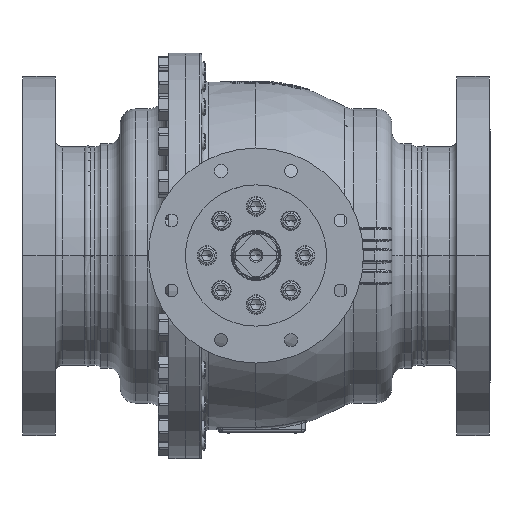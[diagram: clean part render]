
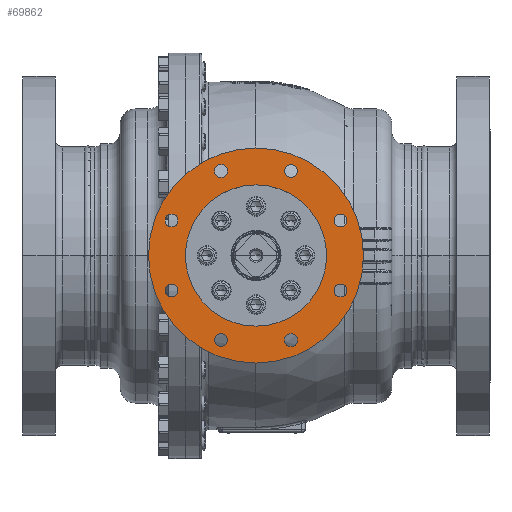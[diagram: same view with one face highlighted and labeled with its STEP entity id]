
A CAD part, top view. The second image highlights one B-rep face of the part: STEP entity #69862.
In plain terms, the highlighted planar face has unit normal (0, 0, 1).
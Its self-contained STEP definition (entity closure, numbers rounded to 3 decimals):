
#2970=CARTESIAN_POINT('',(0.,0.,440.));
#2971=DIRECTION('',(0.,0.,1.));
#2972=DIRECTION('',(1.,0.,0.));
#2973=AXIS2_PLACEMENT_3D('',#2970,#2971,#2972);
#2975=CARTESIAN_POINT('',(0.,0.,440.));
#2976=DIRECTION('',(0.,0.,-1.));
#2977=DIRECTION('',(1.,0.,0.));
#2978=AXIS2_PLACEMENT_3D('',#2975,#2976,#2977);
#2980=CARTESIAN_POINT('',(-57.02,137.658,440.));
#2981=DIRECTION('',(0.,0.,-1.));
#2982=DIRECTION('',(-1.,0.,0.));
#2983=AXIS2_PLACEMENT_3D('',#2980,#2981,#2982);
#2985=CARTESIAN_POINT('',(-57.02,137.658,440.));
#2986=DIRECTION('',(0.,0.,-1.));
#2987=DIRECTION('',(1.,0.,0.));
#2988=AXIS2_PLACEMENT_3D('',#2985,#2986,#2987);
#2990=CARTESIAN_POINT('',(57.02,137.658,440.));
#2991=DIRECTION('',(0.,0.,-1.));
#2992=DIRECTION('',(-0.707,0.707,0.));
#2993=AXIS2_PLACEMENT_3D('',#2990,#2991,#2992);
#2995=CARTESIAN_POINT('',(57.02,137.658,440.));
#2996=DIRECTION('',(0.,0.,-1.));
#2997=DIRECTION('',(0.707,-0.707,0.));
#2998=AXIS2_PLACEMENT_3D('',#2995,#2996,#2997);
#3000=CARTESIAN_POINT('',(137.658,57.02,440.));
#3001=DIRECTION('',(0.,0.,-1.));
#3002=DIRECTION('',(0.,1.,0.));
#3003=AXIS2_PLACEMENT_3D('',#3000,#3001,#3002);
#3005=CARTESIAN_POINT('',(137.658,57.02,440.));
#3006=DIRECTION('',(0.,0.,-1.));
#3007=DIRECTION('',(0.,-1.,0.));
#3008=AXIS2_PLACEMENT_3D('',#3005,#3006,#3007);
#3010=CARTESIAN_POINT('',(137.658,-57.02,440.));
#3011=DIRECTION('',(0.,0.,-1.));
#3012=DIRECTION('',(0.707,0.707,0.));
#3013=AXIS2_PLACEMENT_3D('',#3010,#3011,#3012);
#3015=CARTESIAN_POINT('',(137.658,-57.02,440.));
#3016=DIRECTION('',(0.,0.,-1.));
#3017=DIRECTION('',(-0.707,-0.707,0.));
#3018=AXIS2_PLACEMENT_3D('',#3015,#3016,#3017);
#3020=CARTESIAN_POINT('',(57.02,-137.658,440.));
#3021=DIRECTION('',(0.,0.,-1.));
#3022=DIRECTION('',(1.,0.,0.));
#3023=AXIS2_PLACEMENT_3D('',#3020,#3021,#3022);
#3025=CARTESIAN_POINT('',(57.02,-137.658,440.));
#3026=DIRECTION('',(0.,0.,-1.));
#3027=DIRECTION('',(-1.,0.,0.));
#3028=AXIS2_PLACEMENT_3D('',#3025,#3026,#3027);
#3030=CARTESIAN_POINT('',(-57.02,-137.658,440.));
#3031=DIRECTION('',(0.,0.,-1.));
#3032=DIRECTION('',(0.707,-0.707,0.));
#3033=AXIS2_PLACEMENT_3D('',#3030,#3031,#3032);
#3035=CARTESIAN_POINT('',(-57.02,-137.658,440.));
#3036=DIRECTION('',(0.,0.,-1.));
#3037=DIRECTION('',(-0.707,0.707,0.));
#3038=AXIS2_PLACEMENT_3D('',#3035,#3036,#3037);
#3040=CARTESIAN_POINT('',(-137.658,-57.02,440.));
#3041=DIRECTION('',(0.,0.,-1.));
#3042=DIRECTION('',(0.,-1.,0.));
#3043=AXIS2_PLACEMENT_3D('',#3040,#3041,#3042);
#3045=CARTESIAN_POINT('',(-137.658,-57.02,440.));
#3046=DIRECTION('',(0.,0.,-1.));
#3047=DIRECTION('',(0.,1.,0.));
#3048=AXIS2_PLACEMENT_3D('',#3045,#3046,#3047);
#3050=CARTESIAN_POINT('',(-137.658,57.02,440.));
#3051=DIRECTION('',(0.,0.,-1.));
#3052=DIRECTION('',(-0.707,-0.707,0.));
#3053=AXIS2_PLACEMENT_3D('',#3050,#3051,#3052);
#3055=CARTESIAN_POINT('',(-137.658,57.02,440.));
#3056=DIRECTION('',(0.,0.,-1.));
#3057=DIRECTION('',(0.707,0.707,0.));
#3058=AXIS2_PLACEMENT_3D('',#3055,#3056,#3057);
#3064=CARTESIAN_POINT('',(0.,0.,440.));
#3065=DIRECTION('',(0.,0.,-1.));
#3066=DIRECTION('',(1.,0.,0.));
#3067=AXIS2_PLACEMENT_3D('',#3064,#3065,#3066);
#3073=CARTESIAN_POINT('',(0.,0.,440.));
#3074=DIRECTION('',(0.,0.,1.));
#3075=DIRECTION('',(1.,0.,0.));
#3076=AXIS2_PLACEMENT_3D('',#3073,#3074,#3075);
#65771=CARTESIAN_POINT('',(115.,0.,440.));
#65773=VERTEX_POINT('',#65771);
#65775=CARTESIAN_POINT('',(-115.,0.,440.));
#65777=VERTEX_POINT('',#65775);
#65848=CARTESIAN_POINT('',(175.,0.,440.));
#65850=VERTEX_POINT('',#65848);
#65852=CARTESIAN_POINT('',(-175.,0.,440.));
#65854=VERTEX_POINT('',#65852);
#65927=CARTESIAN_POINT('',(-67.52,137.658,440.));
#65928=CARTESIAN_POINT('',(-46.52,137.658,440.));
#65929=VERTEX_POINT('',#65927);
#65930=VERTEX_POINT('',#65928);
#65935=CARTESIAN_POINT('',(49.595,145.083,440.));
#65936=CARTESIAN_POINT('',(64.444,130.233,440.));
#65937=VERTEX_POINT('',#65935);
#65938=VERTEX_POINT('',#65936);
#65943=CARTESIAN_POINT('',(137.658,67.52,440.));
#65944=CARTESIAN_POINT('',(137.658,46.52,440.));
#65945=VERTEX_POINT('',#65943);
#65946=VERTEX_POINT('',#65944);
#65951=CARTESIAN_POINT('',(145.083,-49.595,440.));
#65952=CARTESIAN_POINT('',(130.233,-64.444,440.));
#65953=VERTEX_POINT('',#65951);
#65954=VERTEX_POINT('',#65952);
#65959=CARTESIAN_POINT('',(67.52,-137.658,440.));
#65960=CARTESIAN_POINT('',(46.52,-137.658,440.));
#65961=VERTEX_POINT('',#65959);
#65962=VERTEX_POINT('',#65960);
#65967=CARTESIAN_POINT('',(-49.595,-145.083,440.));
#65968=CARTESIAN_POINT('',(-64.444,-130.233,440.));
#65969=VERTEX_POINT('',#65967);
#65970=VERTEX_POINT('',#65968);
#65975=CARTESIAN_POINT('',(-137.658,-67.52,440.));
#65976=CARTESIAN_POINT('',(-137.658,-46.52,440.));
#65977=VERTEX_POINT('',#65975);
#65978=VERTEX_POINT('',#65976);
#65983=CARTESIAN_POINT('',(-145.083,49.595,440.));
#65984=CARTESIAN_POINT('',(-130.233,64.444,440.));
#65985=VERTEX_POINT('',#65983);
#65986=VERTEX_POINT('',#65984);
#69799=CARTESIAN_POINT('',(0.,0.,440.));
#69800=DIRECTION('',(0.,0.,1.));
#69801=DIRECTION('',(1.,0.,0.));
#69802=AXIS2_PLACEMENT_3D('',#69799,#69800,#69801);
#69803=PLANE('',#69802);
#69804=ORIENTED_EDGE('',*,*,#69792,.F.);
#69805=ORIENTED_EDGE('',*,*,#69781,.T.);
#69806=EDGE_LOOP('',(#69804,#69805));
#69807=FACE_OUTER_BOUND('',#69806,.F.);
#69809=ORIENTED_EDGE('',*,*,#69808,.F.);
#69811=ORIENTED_EDGE('',*,*,#69810,.T.);
#69812=EDGE_LOOP('',(#69809,#69811));
#69813=FACE_BOUND('',#69812,.F.);
#69815=ORIENTED_EDGE('',*,*,#69814,.F.);
#69817=ORIENTED_EDGE('',*,*,#69816,.F.);
#69818=EDGE_LOOP('',(#69815,#69817));
#69819=FACE_BOUND('',#69818,.F.);
#69821=ORIENTED_EDGE('',*,*,#69820,.F.);
#69823=ORIENTED_EDGE('',*,*,#69822,.F.);
#69824=EDGE_LOOP('',(#69821,#69823));
#69825=FACE_BOUND('',#69824,.F.);
#69827=ORIENTED_EDGE('',*,*,#69826,.F.);
#69829=ORIENTED_EDGE('',*,*,#69828,.F.);
#69830=EDGE_LOOP('',(#69827,#69829));
#69831=FACE_BOUND('',#69830,.F.);
#69833=ORIENTED_EDGE('',*,*,#69832,.F.);
#69835=ORIENTED_EDGE('',*,*,#69834,.F.);
#69836=EDGE_LOOP('',(#69833,#69835));
#69837=FACE_BOUND('',#69836,.F.);
#69839=ORIENTED_EDGE('',*,*,#69838,.F.);
#69841=ORIENTED_EDGE('',*,*,#69840,.F.);
#69842=EDGE_LOOP('',(#69839,#69841));
#69843=FACE_BOUND('',#69842,.F.);
#69845=ORIENTED_EDGE('',*,*,#69844,.F.);
#69847=ORIENTED_EDGE('',*,*,#69846,.F.);
#69848=EDGE_LOOP('',(#69845,#69847));
#69849=FACE_BOUND('',#69848,.F.);
#69851=ORIENTED_EDGE('',*,*,#69850,.F.);
#69853=ORIENTED_EDGE('',*,*,#69852,.F.);
#69854=EDGE_LOOP('',(#69851,#69853));
#69855=FACE_BOUND('',#69854,.F.);
#69857=ORIENTED_EDGE('',*,*,#69856,.F.);
#69859=ORIENTED_EDGE('',*,*,#69858,.F.);
#69860=EDGE_LOOP('',(#69857,#69859));
#69861=FACE_BOUND('',#69860,.F.);
#69862=ADVANCED_FACE('',(#69807,#69813,#69819,#69825,#69831,#69837,#69843,
#69849,#69855,#69861),#69803,.T.);
#2974=CIRCLE('',#2973,175.);
#2979=CIRCLE('',#2978,175.);
#2984=CIRCLE('',#2983,10.5);
#2989=CIRCLE('',#2988,10.5);
#2994=CIRCLE('',#2993,10.5);
#2999=CIRCLE('',#2998,10.5);
#3004=CIRCLE('',#3003,10.5);
#3009=CIRCLE('',#3008,10.5);
#3014=CIRCLE('',#3013,10.5);
#3019=CIRCLE('',#3018,10.5);
#3024=CIRCLE('',#3023,10.5);
#3029=CIRCLE('',#3028,10.5);
#3034=CIRCLE('',#3033,10.5);
#3039=CIRCLE('',#3038,10.5);
#3044=CIRCLE('',#3043,10.5);
#3049=CIRCLE('',#3048,10.5);
#3054=CIRCLE('',#3053,10.5);
#3059=CIRCLE('',#3058,10.5);
#3068=CIRCLE('',#3067,115.);
#3077=CIRCLE('',#3076,115.);
#69781=EDGE_CURVE('',#65850,#65854,#2979,.T.);
#69792=EDGE_CURVE('',#65850,#65854,#2974,.T.);
#69808=EDGE_CURVE('',#65773,#65777,#3068,.T.);
#69810=EDGE_CURVE('',#65773,#65777,#3077,.T.);
#69814=EDGE_CURVE('',#65929,#65930,#2984,.T.);
#69816=EDGE_CURVE('',#65930,#65929,#2989,.T.);
#69820=EDGE_CURVE('',#65937,#65938,#2994,.T.);
#69822=EDGE_CURVE('',#65938,#65937,#2999,.T.);
#69826=EDGE_CURVE('',#65945,#65946,#3004,.T.);
#69828=EDGE_CURVE('',#65946,#65945,#3009,.T.);
#69832=EDGE_CURVE('',#65953,#65954,#3014,.T.);
#69834=EDGE_CURVE('',#65954,#65953,#3019,.T.);
#69838=EDGE_CURVE('',#65961,#65962,#3024,.T.);
#69840=EDGE_CURVE('',#65962,#65961,#3029,.T.);
#69844=EDGE_CURVE('',#65969,#65970,#3034,.T.);
#69846=EDGE_CURVE('',#65970,#65969,#3039,.T.);
#69850=EDGE_CURVE('',#65977,#65978,#3044,.T.);
#69852=EDGE_CURVE('',#65978,#65977,#3049,.T.);
#69856=EDGE_CURVE('',#65985,#65986,#3054,.T.);
#69858=EDGE_CURVE('',#65986,#65985,#3059,.T.);
